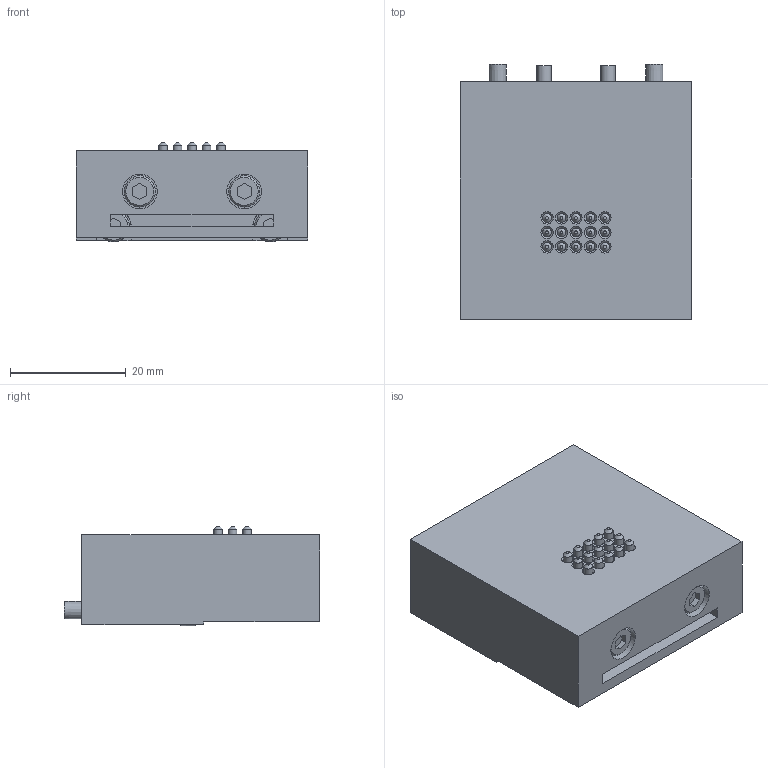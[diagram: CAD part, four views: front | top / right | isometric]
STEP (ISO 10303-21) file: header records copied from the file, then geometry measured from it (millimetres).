
FILE_DESCRIPTION(('STEP AP214'),'1');
FILE_NAME('KHG-12HS-D315_ver1.stp','2026-05-18T00:41:40',(' '),(' '),'Spatial InterOp 3D',' ',' ');
FILE_SCHEMA(('AUTOMOTIVE_DESIGN { 1 0 10303 214 1 1 1 1 }'));
Length unit declared in the file: millimetre
Products named in the file (1): KHG-12HS-D315_ver1
Bounding box: 40 x 44 x 17.2 mm (x, y, z)
Volume: 23584.3 mm3; surface area: 9275.3 mm2
Topology: 1 solids, 11 shells, 253 faces, 559 edges, 358 vertices
Faces by surface type: plane 160, cylinder 51, cone 42
Full cylindrical faces by diameter (mm): 1.5 x15, 2 x2, 2.25 x2, 2.5 x4, 3 x6, 3.3 x2, 3.5 x2, 5.41 x4, 5.5 x2, 6 x2
Entity records: 8288 total; most frequent: DIRECTION 1106, CARTESIAN_POINT 1032, ORIENTED_EDGE 896, EDGE_CURVE 448, AXIS2_PLACEMENT_3D 404, EDGE_LOOP 378, VERTEX_POINT 330, LINE 298
